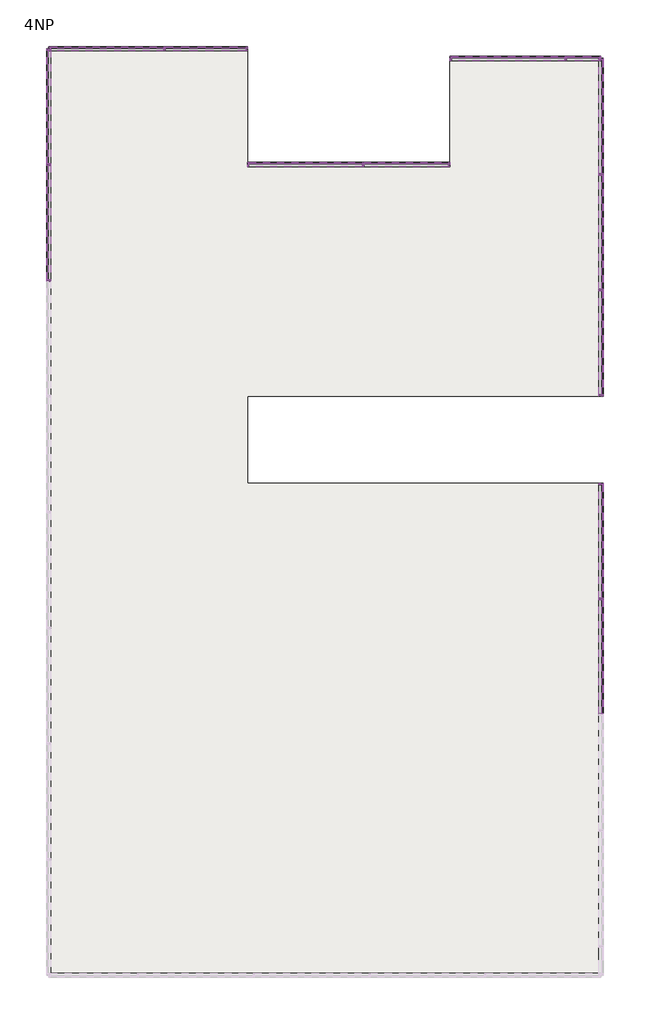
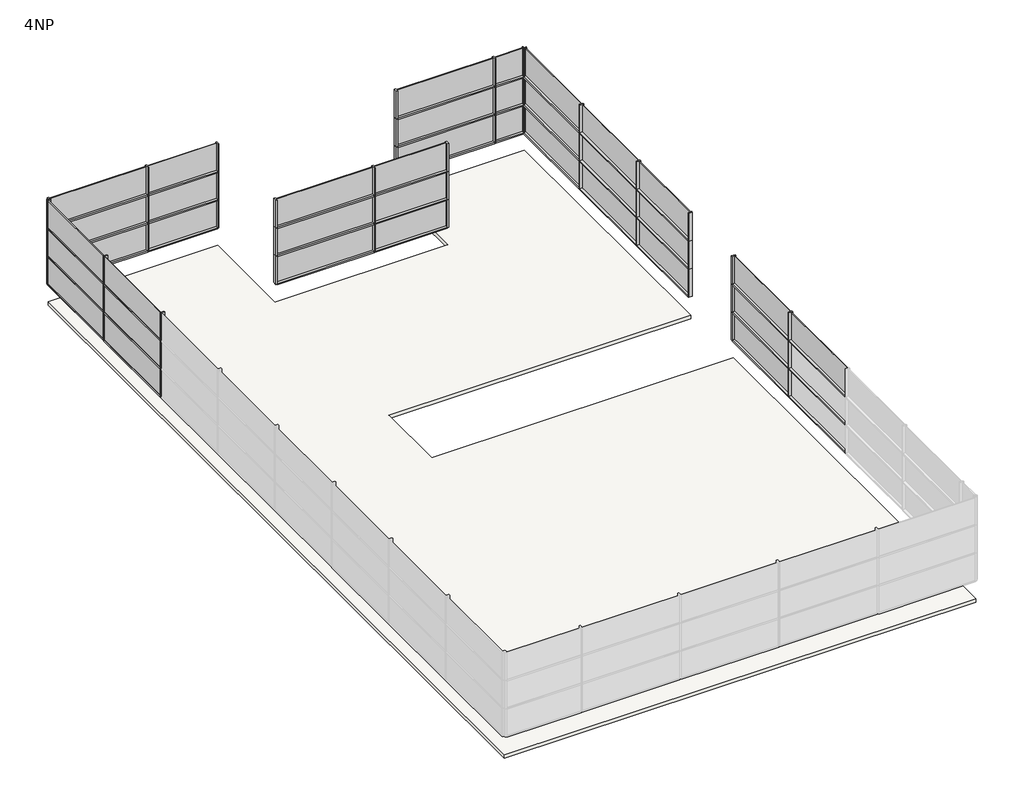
# One storey, part 2 of 2: 93 members, 37 plates, 1 slab.
"""IFC4 building model written with IfcOpenShell, lengths in millimetres."""

from ifc_helpers import new_model, si_unit, frame, origin, place, context, project, spatial, polyline, outline, extrude, transform, mapped, element, save
from components import rectangular_mullion_50_x_150mm_d99dc9be, rectangular_mullion_50_x_150mm_6588f46c, rectangular_mullion_50_x_150mm_3fe1b35e, rectangular_mullion_50_x_150mm_a037c29c, rectangular_mullion_50_x_150mm_c2546fd4, rectangular_mullion_50_x_150mm_8b4cb4b7, rectangular_mullion_50_x_150mm_185cfd49, rectangular_mullion_50_x_150mm_2fe63767, system_panel_glazed_8e9402eb, system_panel_glazed_89ac83a7, system_panel_glazed_5566c609, system_panel_glazed_e890f31e, system_panel_glazed_e3e91f99, system_panel_glazed_39d17f19

model = new_model("IFC4")

# Units and contexts
model_context = context("Model", 3, world=origin())
ifc_project = project(units=[si_unit("LENGTHUNIT", "METRE", prefix="MILLI")], contexts=[model_context])

# Site, building, storey
site = spatial("IfcSite", under=ifc_project)
building = spatial("IfcBuilding", under=site)
storey = spatial("IfcBuildingStorey", under=building, Name="4NP", Elevation=16000.0)

# Members
placement = place(None, origin())
rectangular_mullion_50_x_150mm_shape = rectangular_mullion_50_x_150mm_d99dc9be(model_context)
element("IfcMember", 1, ObjectType="Rectangular Mullion : 50 x 150mm", at=placement, inside=storey, context=model_context, shape_type="MappedRepresentation", body=[
    mapped(rectangular_mullion_50_x_150mm_shape, transform((13503.2660975, 39.3555415, 20400.0), x_axis=(0.0, -1.0, 0.0), y_axis=(1.0, 0.0, 0.0), z_axis=(0.0, 0.0, 1.0))),
])
element("IfcMember", 2, ObjectType="Rectangular Mullion : 50 x 150mm", at=placement, inside=storey, context=model_context, shape_type="MappedRepresentation", body=[
    mapped(rectangular_mullion_50_x_150mm_shape, transform((13503.2660975, 39.3555415, 19200.0), x_axis=(0.0, -1.0, 0.0), y_axis=(1.0, 0.0, 0.0), z_axis=(0.0, 0.0, 1.0))),
])
element("IfcMember", 3, ObjectType="Rectangular Mullion : 50 x 150mm", at=placement, inside=storey, context=model_context, shape_type="MappedRepresentation", body=[
    mapped(rectangular_mullion_50_x_150mm_shape, transform((13503.2660975, 39.3555415, 18000.0), x_axis=(0.0, -1.0, 0.0), y_axis=(1.0, 0.0, 0.0), z_axis=(0.0, 0.0, 1.0))),
])
element("IfcMember", 4, ObjectType="Rectangular Mullion : 50 x 150mm", at=placement, inside=storey, context=model_context, shape_type="MappedRepresentation", body=[
    mapped(rectangular_mullion_50_x_150mm_shape, transform((13503.2660975, 4039.3555415, 20400.0), x_axis=(0.0, -1.0, 0.0), y_axis=(1.0, 0.0, 0.0), z_axis=(0.0, 0.0, 1.0))),
])
element("IfcMember", 5, ObjectType="Rectangular Mullion : 50 x 150mm", at=placement, inside=storey, context=model_context, shape_type="MappedRepresentation", body=[
    mapped(rectangular_mullion_50_x_150mm_shape, transform((13503.2660975, 4039.3555415, 19200.0), x_axis=(0.0, -1.0, 0.0), y_axis=(1.0, 0.0, 0.0), z_axis=(0.0, 0.0, 1.0))),
])
element("IfcMember", 6, ObjectType="Rectangular Mullion : 50 x 150mm", at=placement, inside=storey, context=model_context, shape_type="MappedRepresentation", body=[
    mapped(rectangular_mullion_50_x_150mm_shape, transform((13503.2660975, 4039.3555415, 18000.0), x_axis=(0.0, -1.0, 0.0), y_axis=(1.0, 0.0, 0.0), z_axis=(0.0, 0.0, 1.0))),
])
element("IfcMember", 7, ObjectType="Rectangular Mullion : 50 x 150mm", at=placement, inside=storey, context=model_context, shape_type="MappedRepresentation", body=[
    mapped(rectangular_mullion_50_x_150mm_shape, transform((13503.2660975, -10624.0160434, 18000.0), x_axis=(0.0, -1.0, 0.0), y_axis=(1.0, 0.0, 0.0), z_axis=(0.0, 0.0, 1.0))),
])
element("IfcMember", 8, ObjectType="Rectangular Mullion : 50 x 150mm", at=placement, inside=storey, context=model_context, shape_type="MappedRepresentation", body=[
    mapped(rectangular_mullion_50_x_150mm_shape, transform((13503.2660975, -10624.0160434, 19200.0), x_axis=(0.0, -1.0, 0.0), y_axis=(1.0, 0.0, 0.0), z_axis=(0.0, 0.0, 1.0))),
])
element("IfcMember", 9, ObjectType="Rectangular Mullion : 50 x 150mm", at=placement, inside=storey, context=model_context, shape_type="MappedRepresentation", body=[
    mapped(rectangular_mullion_50_x_150mm_shape, transform((13503.2660975, -10624.0160434, 20400.0), x_axis=(0.0, -1.0, 0.0), y_axis=(1.0, 0.0, 0.0), z_axis=(0.0, 0.0, 1.0))),
])
element("IfcMember", 10, ObjectType="Rectangular Mullion : 50 x 150mm", at=placement, inside=storey, context=model_context, shape_type="MappedRepresentation", body=[
    mapped(rectangular_mullion_50_x_150mm_shape, transform((-5587.173406, 375.9839566, 18000.0), x_axis=(0.0, 1.0, 0.0), y_axis=(-1.0, 0.0, 0.0), z_axis=(0.0, 0.0, 1.0))),
])
element("IfcMember", 11, ObjectType="Rectangular Mullion : 50 x 150mm", at=placement, inside=storey, context=model_context, shape_type="MappedRepresentation", body=[
    mapped(rectangular_mullion_50_x_150mm_shape, transform((-5587.173406, 375.9839566, 19200.0), x_axis=(0.0, 1.0, 0.0), y_axis=(-1.0, 0.0, 0.0), z_axis=(0.0, 0.0, 1.0))),
])
element("IfcMember", 12, ObjectType="Rectangular Mullion : 50 x 150mm", at=placement, inside=storey, context=model_context, shape_type="MappedRepresentation", body=[
    mapped(rectangular_mullion_50_x_150mm_shape, transform((-5587.173406, 375.9839566, 20400.0), x_axis=(0.0, 1.0, 0.0), y_axis=(-1.0, 0.0, 0.0), z_axis=(0.0, 0.0, 1.0))),
])
element("IfcMember", 13, ObjectType="Rectangular Mullion : 50 x 150mm", at=placement, inside=storey, context=model_context, shape_type="MappedRepresentation", body=[
    mapped(rectangular_mullion_50_x_150mm_shape, transform((-5587.173406, 4375.9839566, 18000.0), x_axis=(0.0, 1.0, 0.0), y_axis=(-1.0, 0.0, 0.0), z_axis=(0.0, 0.0, 1.0))),
])
element("IfcMember", 14, ObjectType="Rectangular Mullion : 50 x 150mm", at=placement, inside=storey, context=model_context, shape_type="MappedRepresentation", body=[
    mapped(rectangular_mullion_50_x_150mm_shape, transform((-5587.173406, 4375.9839566, 19200.0), x_axis=(0.0, 1.0, 0.0), y_axis=(-1.0, 0.0, 0.0), z_axis=(0.0, 0.0, 1.0))),
])
element("IfcMember", 15, ObjectType="Rectangular Mullion : 50 x 150mm", at=placement, inside=storey, context=model_context, shape_type="MappedRepresentation", body=[
    mapped(rectangular_mullion_50_x_150mm_shape, transform((-5587.173406, 4375.9839566, 20400.0), x_axis=(0.0, 1.0, 0.0), y_axis=(-1.0, 0.0, 0.0), z_axis=(0.0, 0.0, 1.0))),
])
element("IfcMember", 16, ObjectType="Rectangular Mullion : 50 x 150mm", at=placement, inside=storey, context=model_context, shape_type="MappedRepresentation", body=[
    mapped(rectangular_mullion_50_x_150mm_shape, transform((-1587.173406, 8375.9839566, 18000.0), x_axis=(1.0, 0.0, 0.0), y_axis=(0.0, 1.0, 0.0), z_axis=(0.0, 0.0, 1.0))),
])
element("IfcMember", 17, ObjectType="Rectangular Mullion : 50 x 150mm", at=placement, inside=storey, context=model_context, shape_type="MappedRepresentation", body=[
    mapped(rectangular_mullion_50_x_150mm_shape, transform((-1587.173406, 8375.9839566, 19200.0), x_axis=(1.0, 0.0, 0.0), y_axis=(0.0, 1.0, 0.0), z_axis=(0.0, 0.0, 1.0))),
])
element("IfcMember", 18, ObjectType="Rectangular Mullion : 50 x 150mm", at=placement, inside=storey, context=model_context, shape_type="MappedRepresentation", body=[
    mapped(rectangular_mullion_50_x_150mm_shape, transform((-1587.173406, 8375.9839566, 20400.0), x_axis=(1.0, 0.0, 0.0), y_axis=(0.0, 1.0, 0.0), z_axis=(0.0, 0.0, 1.0))),
])
element("IfcMember", 19, ObjectType="Rectangular Mullion : 50 x 150mm", at=placement, inside=storey, context=model_context, shape_type="MappedRepresentation", body=[
    mapped(rectangular_mullion_50_x_150mm_shape, transform((5278.419219, 4375.9839566, 18000.0), x_axis=(1.0, 0.0, 0.0), y_axis=(0.0, 1.0, 0.0), z_axis=(0.0, 0.0, 1.0))),
])
element("IfcMember", 20, ObjectType="Rectangular Mullion : 50 x 150mm", at=placement, inside=storey, context=model_context, shape_type="MappedRepresentation", body=[
    mapped(rectangular_mullion_50_x_150mm_shape, transform((5278.419219, 4375.9839566, 19200.0), x_axis=(1.0, 0.0, 0.0), y_axis=(0.0, 1.0, 0.0), z_axis=(0.0, 0.0, 1.0))),
])
element("IfcMember", 21, ObjectType="Rectangular Mullion : 50 x 150mm", at=placement, inside=storey, context=model_context, shape_type="MappedRepresentation", body=[
    mapped(rectangular_mullion_50_x_150mm_shape, transform((5278.419219, 4375.9839566, 20400.0), x_axis=(1.0, 0.0, 0.0), y_axis=(0.0, 1.0, 0.0), z_axis=(0.0, 0.0, 1.0))),
])
element("IfcMember", 22, ObjectType="Rectangular Mullion : 50 x 150mm", at=placement, inside=storey, context=model_context, shape_type="MappedRepresentation", body=[
    mapped(rectangular_mullion_50_x_150mm_shape, transform((12278.419219, 8039.3555415, 18000.0), x_axis=(1.0, 0.0, 0.0), y_axis=(0.0, 1.0, 0.0), z_axis=(0.0, 0.0, 1.0))),
])
element("IfcMember", 23, ObjectType="Rectangular Mullion : 50 x 150mm", at=placement, inside=storey, context=model_context, shape_type="MappedRepresentation", body=[
    mapped(rectangular_mullion_50_x_150mm_shape, transform((12278.419219, 8039.3555415, 19200.0), x_axis=(1.0, 0.0, 0.0), y_axis=(0.0, 1.0, 0.0), z_axis=(0.0, 0.0, 1.0))),
])
element("IfcMember", 24, ObjectType="Rectangular Mullion : 50 x 150mm", at=placement, inside=storey, context=model_context, shape_type="MappedRepresentation", body=[
    mapped(rectangular_mullion_50_x_150mm_shape, transform((12278.419219, 8039.3555415, 20400.0), x_axis=(1.0, 0.0, 0.0), y_axis=(0.0, 1.0, 0.0), z_axis=(0.0, 0.0, 1.0))),
])
rectangular_mullion_50_x_150mm_2_shape = rectangular_mullion_50_x_150mm_6588f46c(model_context)
element("IfcMember", 25, ObjectType="Rectangular Mullion : 50 x 150mm", at=placement, inside=storey, context=model_context, shape_type="MappedRepresentation", body=[
    mapped(rectangular_mullion_50_x_150mm_2_shape, transform((13503.2660975, -3624.0160434, 20400.0), x_axis=(0.0, -1.0, 0.0), y_axis=(1.0, 0.0, 0.0), z_axis=(0.0, 0.0, 1.0))),
])
element("IfcMember", 26, ObjectType="Rectangular Mullion : 50 x 150mm", at=placement, inside=storey, context=model_context, shape_type="MappedRepresentation", body=[
    mapped(rectangular_mullion_50_x_150mm_2_shape, transform((13503.2660975, -3624.0160434, 19200.0), x_axis=(0.0, -1.0, 0.0), y_axis=(1.0, 0.0, 0.0), z_axis=(0.0, 0.0, 1.0))),
])
element("IfcMember", 27, ObjectType="Rectangular Mullion : 50 x 150mm", at=placement, inside=storey, context=model_context, shape_type="MappedRepresentation", body=[
    mapped(rectangular_mullion_50_x_150mm_2_shape, transform((13503.2660975, -3624.0160434, 18000.0), x_axis=(0.0, -1.0, 0.0), y_axis=(1.0, 0.0, 0.0), z_axis=(0.0, 0.0, 1.0))),
])
element("IfcMember", 28, ObjectType="Rectangular Mullion : 50 x 150mm", at=placement, inside=storey, context=model_context, shape_type="MappedRepresentation", body=[
    mapped(rectangular_mullion_50_x_150mm_2_shape, transform((-5587.173406, 8375.9839566, 18000.0), x_axis=(0.0, 1.0, 0.0), y_axis=(-1.0, 0.0, 0.0), z_axis=(0.0, 0.0, 1.0))),
])
element("IfcMember", 29, ObjectType="Rectangular Mullion : 50 x 150mm", at=placement, inside=storey, context=model_context, shape_type="MappedRepresentation", body=[
    mapped(rectangular_mullion_50_x_150mm_2_shape, transform((-5587.173406, 8375.9839566, 19200.0), x_axis=(0.0, 1.0, 0.0), y_axis=(-1.0, 0.0, 0.0), z_axis=(0.0, 0.0, 1.0))),
])
element("IfcMember", 30, ObjectType="Rectangular Mullion : 50 x 150mm", at=placement, inside=storey, context=model_context, shape_type="MappedRepresentation", body=[
    mapped(rectangular_mullion_50_x_150mm_2_shape, transform((-5587.173406, 8375.9839566, 20400.0), x_axis=(0.0, 1.0, 0.0), y_axis=(-1.0, 0.0, 0.0), z_axis=(0.0, 0.0, 1.0))),
])
element("IfcMember", 31, ObjectType="Rectangular Mullion : 50 x 150mm", at=placement, inside=storey, context=model_context, shape_type="MappedRepresentation", body=[
    mapped(rectangular_mullion_50_x_150mm_2_shape, transform((1278.419219, 8375.9839566, 18000.0), x_axis=(1.0, 0.0, 0.0), y_axis=(0.0, 1.0, 0.0), z_axis=(0.0, 0.0, 1.0))),
])
element("IfcMember", 32, ObjectType="Rectangular Mullion : 50 x 150mm", at=placement, inside=storey, context=model_context, shape_type="MappedRepresentation", body=[
    mapped(rectangular_mullion_50_x_150mm_2_shape, transform((1278.419219, 8375.9839566, 19200.0), x_axis=(1.0, 0.0, 0.0), y_axis=(0.0, 1.0, 0.0), z_axis=(0.0, 0.0, 1.0))),
])
element("IfcMember", 33, ObjectType="Rectangular Mullion : 50 x 150mm", at=placement, inside=storey, context=model_context, shape_type="MappedRepresentation", body=[
    mapped(rectangular_mullion_50_x_150mm_2_shape, transform((1278.419219, 8375.9839566, 20400.0), x_axis=(1.0, 0.0, 0.0), y_axis=(0.0, 1.0, 0.0), z_axis=(0.0, 0.0, 1.0))),
])
element("IfcMember", 34, ObjectType="Rectangular Mullion : 50 x 150mm", at=placement, inside=storey, context=model_context, shape_type="MappedRepresentation", body=[
    mapped(rectangular_mullion_50_x_150mm_2_shape, transform((8278.419219, 4375.9839566, 18000.0), x_axis=(1.0, 0.0, 0.0), y_axis=(0.0, 1.0, 0.0), z_axis=(0.0, 0.0, 1.0))),
])
element("IfcMember", 35, ObjectType="Rectangular Mullion : 50 x 150mm", at=placement, inside=storey, context=model_context, shape_type="MappedRepresentation", body=[
    mapped(rectangular_mullion_50_x_150mm_2_shape, transform((8278.419219, 4375.9839566, 19200.0), x_axis=(1.0, 0.0, 0.0), y_axis=(0.0, 1.0, 0.0), z_axis=(0.0, 0.0, 1.0))),
])
element("IfcMember", 36, ObjectType="Rectangular Mullion : 50 x 150mm", at=placement, inside=storey, context=model_context, shape_type="MappedRepresentation", body=[
    mapped(rectangular_mullion_50_x_150mm_2_shape, transform((8278.419219, 4375.9839566, 20400.0), x_axis=(1.0, 0.0, 0.0), y_axis=(0.0, 1.0, 0.0), z_axis=(0.0, 0.0, 1.0))),
])
element("IfcMember", 37, ObjectType="Rectangular Mullion : 50 x 150mm", at=placement, inside=storey, context=model_context, shape_type="MappedRepresentation", body=[
    mapped(rectangular_mullion_50_x_150mm_2_shape, transform((13503.2660975, 8039.3555415, 18000.0), x_axis=(1.0, 0.0, 0.0), y_axis=(0.0, 1.0, 0.0), z_axis=(0.0, 0.0, 1.0))),
])
element("IfcMember", 38, ObjectType="Rectangular Mullion : 50 x 150mm", at=placement, inside=storey, context=model_context, shape_type="MappedRepresentation", body=[
    mapped(rectangular_mullion_50_x_150mm_2_shape, transform((13503.2660975, 8039.3555415, 19200.0), x_axis=(1.0, 0.0, 0.0), y_axis=(0.0, 1.0, 0.0), z_axis=(0.0, 0.0, 1.0))),
])
element("IfcMember", 39, ObjectType="Rectangular Mullion : 50 x 150mm", at=placement, inside=storey, context=model_context, shape_type="MappedRepresentation", body=[
    mapped(rectangular_mullion_50_x_150mm_2_shape, transform((13503.2660975, 8039.3555415, 20400.0), x_axis=(1.0, 0.0, 0.0), y_axis=(0.0, 1.0, 0.0), z_axis=(0.0, 0.0, 1.0))),
])
rectangular_mullion_50_x_150mm_3_shape = rectangular_mullion_50_x_150mm_3fe1b35e(model_context)
element("IfcMember", 40, ObjectType="Rectangular Mullion : 50 x 150mm", at=placement, inside=storey, context=model_context, shape_type="MappedRepresentation", body=[
    mapped(rectangular_mullion_50_x_150mm_3_shape, transform((13503.2660975, 14.3555415, 19200.0), x_axis=(0.0, 0.0, 1.0), y_axis=(1.0, 0.0, 0.0), z_axis=(0.0, 1.0, 0.0))),
])
element("IfcMember", 41, ObjectType="Rectangular Mullion : 50 x 150mm", at=placement, inside=storey, context=model_context, shape_type="MappedRepresentation", body=[
    mapped(rectangular_mullion_50_x_150mm_3_shape, transform((13503.2660975, 14.3555415, 18000.0), x_axis=(0.0, 0.0, 1.0), y_axis=(1.0, 0.0, 0.0), z_axis=(0.0, 1.0, 0.0))),
])
element("IfcMember", 42, ObjectType="Rectangular Mullion : 50 x 150mm", at=placement, inside=storey, context=model_context, shape_type="MappedRepresentation", body=[
    mapped(rectangular_mullion_50_x_150mm_3_shape, transform((13503.2660975, 14.3555415, 16800.0), x_axis=(0.0, 0.0, 1.0), y_axis=(1.0, 0.0, 0.0), z_axis=(0.0, 1.0, 0.0))),
])
rectangular_mullion_50_x_150mm_4_shape = rectangular_mullion_50_x_150mm_a037c29c(model_context)
element("IfcMember", 43, ObjectType="Rectangular Mullion : 50 x 150mm", at=placement, inside=storey, context=model_context, shape_type="MappedRepresentation", body=[
    mapped(rectangular_mullion_50_x_150mm_4_shape, transform((13503.2660975, 4014.3555415, 19200.0), x_axis=(0.0, 0.0, 1.0), y_axis=(1.0, 0.0, 0.0), z_axis=(0.0, 1.0, 0.0))),
])
element("IfcMember", 44, ObjectType="Rectangular Mullion : 50 x 150mm", at=placement, inside=storey, context=model_context, shape_type="MappedRepresentation", body=[
    mapped(rectangular_mullion_50_x_150mm_4_shape, transform((13503.2660975, 4014.3555415, 18000.0), x_axis=(0.0, 0.0, 1.0), y_axis=(1.0, 0.0, 0.0), z_axis=(0.0, 1.0, 0.0))),
])
element("IfcMember", 45, ObjectType="Rectangular Mullion : 50 x 150mm", at=placement, inside=storey, context=model_context, shape_type="MappedRepresentation", body=[
    mapped(rectangular_mullion_50_x_150mm_4_shape, transform((13503.2660975, 4014.3555415, 16800.0), x_axis=(0.0, 0.0, 1.0), y_axis=(1.0, 0.0, 0.0), z_axis=(0.0, 1.0, 0.0))),
])
element("IfcMember", 46, ObjectType="Rectangular Mullion : 50 x 150mm", at=placement, inside=storey, context=model_context, shape_type="MappedRepresentation", body=[
    mapped(rectangular_mullion_50_x_150mm_4_shape, transform((13503.2660975, -10649.0160434, 16800.0), x_axis=(0.0, 0.0, 1.0), y_axis=(1.0, 0.0, 0.0), z_axis=(0.0, 1.0, 0.0))),
])
element("IfcMember", 47, ObjectType="Rectangular Mullion : 50 x 150mm", at=placement, inside=storey, context=model_context, shape_type="MappedRepresentation", body=[
    mapped(rectangular_mullion_50_x_150mm_4_shape, transform((13503.2660975, -10649.0160434, 18000.0), x_axis=(0.0, 0.0, 1.0), y_axis=(1.0, 0.0, 0.0), z_axis=(0.0, 1.0, 0.0))),
])
element("IfcMember", 48, ObjectType="Rectangular Mullion : 50 x 150mm", at=placement, inside=storey, context=model_context, shape_type="MappedRepresentation", body=[
    mapped(rectangular_mullion_50_x_150mm_4_shape, transform((13503.2660975, -10649.0160434, 19200.0), x_axis=(0.0, 0.0, 1.0), y_axis=(1.0, 0.0, 0.0), z_axis=(0.0, 1.0, 0.0))),
])
element("IfcMember", 49, ObjectType="Rectangular Mullion : 50 x 150mm", at=placement, inside=storey, context=model_context, shape_type="MappedRepresentation", body=[
    mapped(rectangular_mullion_50_x_150mm_4_shape, transform((-5587.173406, 400.9839566, 16800.0), x_axis=(0.0, 0.0, 1.0), y_axis=(-1.0, 0.0, 0.0), z_axis=(0.0, -1.0, 0.0))),
])
element("IfcMember", 50, ObjectType="Rectangular Mullion : 50 x 150mm", at=placement, inside=storey, context=model_context, shape_type="MappedRepresentation", body=[
    mapped(rectangular_mullion_50_x_150mm_4_shape, transform((-5587.173406, 400.9839566, 18000.0), x_axis=(0.0, 0.0, 1.0), y_axis=(-1.0, 0.0, 0.0), z_axis=(0.0, -1.0, 0.0))),
])
element("IfcMember", 51, ObjectType="Rectangular Mullion : 50 x 150mm", at=placement, inside=storey, context=model_context, shape_type="MappedRepresentation", body=[
    mapped(rectangular_mullion_50_x_150mm_4_shape, transform((-5587.173406, 400.9839566, 19200.0), x_axis=(0.0, 0.0, 1.0), y_axis=(-1.0, 0.0, 0.0), z_axis=(0.0, -1.0, 0.0))),
])
rectangular_mullion_50_x_150mm_5_shape = rectangular_mullion_50_x_150mm_c2546fd4(model_context)
element("IfcMember", 52, ObjectType="Rectangular Mullion : 50 x 150mm", at=placement, inside=storey, context=model_context, shape_type="MappedRepresentation", body=[
    mapped(rectangular_mullion_50_x_150mm_5_shape, transform((13503.2660975, 7989.3555415, 19200.0), x_axis=(0.0, 0.0, 1.0), y_axis=(1.0, 0.0, 0.0), z_axis=(0.0, 1.0, 0.0))),
])
element("IfcMember", 53, ObjectType="Rectangular Mullion : 50 x 150mm", at=placement, inside=storey, context=model_context, shape_type="MappedRepresentation", body=[
    mapped(rectangular_mullion_50_x_150mm_5_shape, transform((13503.2660975, 7989.3555415, 18000.0), x_axis=(0.0, 0.0, 1.0), y_axis=(1.0, 0.0, 0.0), z_axis=(0.0, 1.0, 0.0))),
])
element("IfcMember", 54, ObjectType="Rectangular Mullion : 50 x 150mm", at=placement, inside=storey, context=model_context, shape_type="MappedRepresentation", body=[
    mapped(rectangular_mullion_50_x_150mm_5_shape, transform((13503.2660975, 7989.3555415, 16800.0), x_axis=(0.0, 0.0, 1.0), y_axis=(1.0, 0.0, 0.0), z_axis=(0.0, 1.0, 0.0))),
])
element("IfcMember", 55, ObjectType="Rectangular Mullion : 50 x 150mm", at=placement, inside=storey, context=model_context, shape_type="MappedRepresentation", body=[
    mapped(rectangular_mullion_50_x_150mm_5_shape, transform((13503.2660975, -6674.0160434, 16800.0), x_axis=(0.0, 0.0, 1.0), y_axis=(1.0, 0.0, 0.0), z_axis=(0.0, 1.0, 0.0))),
])
element("IfcMember", 56, ObjectType="Rectangular Mullion : 50 x 150mm", at=placement, inside=storey, context=model_context, shape_type="MappedRepresentation", body=[
    mapped(rectangular_mullion_50_x_150mm_5_shape, transform((13503.2660975, -6674.0160434, 18000.0), x_axis=(0.0, 0.0, 1.0), y_axis=(1.0, 0.0, 0.0), z_axis=(0.0, 1.0, 0.0))),
])
element("IfcMember", 57, ObjectType="Rectangular Mullion : 50 x 150mm", at=placement, inside=storey, context=model_context, shape_type="MappedRepresentation", body=[
    mapped(rectangular_mullion_50_x_150mm_5_shape, transform((13503.2660975, -6674.0160434, 19200.0), x_axis=(0.0, 0.0, 1.0), y_axis=(1.0, 0.0, 0.0), z_axis=(0.0, 1.0, 0.0))),
])
element("IfcMember", 58, ObjectType="Rectangular Mullion : 50 x 150mm", at=placement, inside=storey, context=model_context, shape_type="MappedRepresentation", body=[
    mapped(rectangular_mullion_50_x_150mm_5_shape, transform((-5587.173406, 4400.9839566, 16800.0), x_axis=(0.0, 0.0, 1.0), y_axis=(-1.0, 0.0, 0.0), z_axis=(0.0, -1.0, 0.0))),
])
element("IfcMember", 59, ObjectType="Rectangular Mullion : 50 x 150mm", at=placement, inside=storey, context=model_context, shape_type="MappedRepresentation", body=[
    mapped(rectangular_mullion_50_x_150mm_5_shape, transform((-5587.173406, 4400.9839566, 18000.0), x_axis=(0.0, 0.0, 1.0), y_axis=(-1.0, 0.0, 0.0), z_axis=(0.0, -1.0, 0.0))),
])
element("IfcMember", 60, ObjectType="Rectangular Mullion : 50 x 150mm", at=placement, inside=storey, context=model_context, shape_type="MappedRepresentation", body=[
    mapped(rectangular_mullion_50_x_150mm_5_shape, transform((-5587.173406, 4400.9839566, 19200.0), x_axis=(0.0, 0.0, 1.0), y_axis=(-1.0, 0.0, 0.0), z_axis=(0.0, -1.0, 0.0))),
])
element("IfcMember", 61, ObjectType="Rectangular Mullion : 50 x 150mm", at=placement, inside=storey, context=model_context, shape_type="MappedRepresentation", body=[
    mapped(rectangular_mullion_50_x_150mm_5_shape, transform((-5537.173406, 8375.9839566, 18000.0), x_axis=(0.0, 0.0, 1.0), y_axis=(0.0, 1.0, 0.0), z_axis=(-1.0, 0.0, 0.0))),
])
element("IfcMember", 62, ObjectType="Rectangular Mullion : 50 x 150mm", at=placement, inside=storey, context=model_context, shape_type="MappedRepresentation", body=[
    mapped(rectangular_mullion_50_x_150mm_5_shape, transform((-5537.173406, 8375.9839566, 19200.0), x_axis=(0.0, 0.0, 1.0), y_axis=(0.0, 1.0, 0.0), z_axis=(-1.0, 0.0, 0.0))),
])
element("IfcMember", 63, ObjectType="Rectangular Mullion : 50 x 150mm", at=placement, inside=storey, context=model_context, shape_type="MappedRepresentation", body=[
    mapped(rectangular_mullion_50_x_150mm_5_shape, transform((-5537.173406, 8375.9839566, 16800.0), x_axis=(0.0, 0.0, 1.0), y_axis=(0.0, 1.0, 0.0), z_axis=(-1.0, 0.0, 0.0))),
])
element("IfcMember", 64, ObjectType="Rectangular Mullion : 50 x 150mm", at=placement, inside=storey, context=model_context, shape_type="MappedRepresentation", body=[
    mapped(rectangular_mullion_50_x_150mm_5_shape, transform((1328.419219, 4375.9839566, 16800.0), x_axis=(0.0, 0.0, 1.0), y_axis=(0.0, 1.0, 0.0), z_axis=(-1.0, 0.0, 0.0))),
])
element("IfcMember", 65, ObjectType="Rectangular Mullion : 50 x 150mm", at=placement, inside=storey, context=model_context, shape_type="MappedRepresentation", body=[
    mapped(rectangular_mullion_50_x_150mm_5_shape, transform((1328.419219, 4375.9839566, 18000.0), x_axis=(0.0, 0.0, 1.0), y_axis=(0.0, 1.0, 0.0), z_axis=(-1.0, 0.0, 0.0))),
])
element("IfcMember", 66, ObjectType="Rectangular Mullion : 50 x 150mm", at=placement, inside=storey, context=model_context, shape_type="MappedRepresentation", body=[
    mapped(rectangular_mullion_50_x_150mm_5_shape, transform((1328.419219, 4375.9839566, 19200.0), x_axis=(0.0, 0.0, 1.0), y_axis=(0.0, 1.0, 0.0), z_axis=(-1.0, 0.0, 0.0))),
])
element("IfcMember", 67, ObjectType="Rectangular Mullion : 50 x 150mm", at=placement, inside=storey, context=model_context, shape_type="MappedRepresentation", body=[
    mapped(rectangular_mullion_50_x_150mm_5_shape, transform((8328.419219, 8039.3555415, 16800.0), x_axis=(0.0, 0.0, 1.0), y_axis=(0.0, 1.0, 0.0), z_axis=(-1.0, 0.0, 0.0))),
])
element("IfcMember", 68, ObjectType="Rectangular Mullion : 50 x 150mm", at=placement, inside=storey, context=model_context, shape_type="MappedRepresentation", body=[
    mapped(rectangular_mullion_50_x_150mm_5_shape, transform((8328.419219, 8039.3555415, 18000.0), x_axis=(0.0, 0.0, 1.0), y_axis=(0.0, 1.0, 0.0), z_axis=(-1.0, 0.0, 0.0))),
])
element("IfcMember", 69, ObjectType="Rectangular Mullion : 50 x 150mm", at=placement, inside=storey, context=model_context, shape_type="MappedRepresentation", body=[
    mapped(rectangular_mullion_50_x_150mm_5_shape, transform((8328.419219, 8039.3555415, 19200.0), x_axis=(0.0, 0.0, 1.0), y_axis=(0.0, 1.0, 0.0), z_axis=(-1.0, 0.0, 0.0))),
])
element("IfcMember", 70, ObjectType="Rectangular Mullion : 50 x 150mm", at=placement, inside=storey, context=model_context, shape_type="MappedRepresentation", body=[
    mapped(rectangular_mullion_50_x_150mm_2_shape, transform((13503.2660975, 8039.3555415, 19200.0), x_axis=(0.0, 1.0, 0.0), y_axis=(1.0, 0.0, 0.0), z_axis=(0.0, 0.0, -1.0))),
])
element("IfcMember", 71, ObjectType="Rectangular Mullion : 50 x 150mm", at=placement, inside=storey, context=model_context, shape_type="MappedRepresentation", body=[
    mapped(rectangular_mullion_50_x_150mm_2_shape, transform((13503.2660975, 8039.3555415, 18000.0), x_axis=(0.0, 1.0, 0.0), y_axis=(1.0, 0.0, 0.0), z_axis=(0.0, 0.0, -1.0))),
])
element("IfcMember", 72, ObjectType="Rectangular Mullion : 50 x 150mm", at=placement, inside=storey, context=model_context, shape_type="MappedRepresentation", body=[
    mapped(rectangular_mullion_50_x_150mm_2_shape, transform((13503.2660975, 8039.3555415, 16800.0), x_axis=(0.0, 1.0, 0.0), y_axis=(1.0, 0.0, 0.0), z_axis=(0.0, 0.0, -1.0))),
])
element("IfcMember", 73, ObjectType="Rectangular Mullion : 50 x 150mm", at=placement, inside=storey, context=model_context, shape_type="MappedRepresentation", body=[
    mapped(rectangular_mullion_50_x_150mm_2_shape, transform((13503.2660975, -6624.0160434, 16800.0), x_axis=(0.0, 1.0, 0.0), y_axis=(1.0, 0.0, 0.0), z_axis=(0.0, 0.0, -1.0))),
])
element("IfcMember", 74, ObjectType="Rectangular Mullion : 50 x 150mm", at=placement, inside=storey, context=model_context, shape_type="MappedRepresentation", body=[
    mapped(rectangular_mullion_50_x_150mm_2_shape, transform((13503.2660975, -6624.0160434, 18000.0), x_axis=(0.0, 1.0, 0.0), y_axis=(1.0, 0.0, 0.0), z_axis=(0.0, 0.0, -1.0))),
])
element("IfcMember", 75, ObjectType="Rectangular Mullion : 50 x 150mm", at=placement, inside=storey, context=model_context, shape_type="MappedRepresentation", body=[
    mapped(rectangular_mullion_50_x_150mm_2_shape, transform((13503.2660975, -6624.0160434, 19200.0), x_axis=(0.0, 1.0, 0.0), y_axis=(1.0, 0.0, 0.0), z_axis=(0.0, 0.0, -1.0))),
])
element("IfcMember", 76, ObjectType="Rectangular Mullion : 50 x 150mm", at=placement, inside=storey, context=model_context, shape_type="MappedRepresentation", body=[
    mapped(rectangular_mullion_50_x_150mm_2_shape, transform((-5587.173406, 8375.9839566, 16800.0), x_axis=(-1.0, 0.0, 0.0), y_axis=(0.0, 1.0, 0.0), z_axis=(0.0, 0.0, -1.0))),
])
element("IfcMember", 77, ObjectType="Rectangular Mullion : 50 x 150mm", at=placement, inside=storey, context=model_context, shape_type="MappedRepresentation", body=[
    mapped(rectangular_mullion_50_x_150mm_2_shape, transform((-5587.173406, 8375.9839566, 18000.0), x_axis=(-1.0, 0.0, 0.0), y_axis=(0.0, 1.0, 0.0), z_axis=(0.0, 0.0, -1.0))),
])
element("IfcMember", 78, ObjectType="Rectangular Mullion : 50 x 150mm", at=placement, inside=storey, context=model_context, shape_type="MappedRepresentation", body=[
    mapped(rectangular_mullion_50_x_150mm_2_shape, transform((-5587.173406, 8375.9839566, 19200.0), x_axis=(-1.0, 0.0, 0.0), y_axis=(0.0, 1.0, 0.0), z_axis=(0.0, 0.0, -1.0))),
])
element("IfcMember", 79, ObjectType="Rectangular Mullion : 50 x 150mm", at=placement, inside=storey, context=model_context, shape_type="MappedRepresentation", body=[
    mapped(rectangular_mullion_50_x_150mm_2_shape, transform((1278.419219, 4375.9839566, 16800.0), x_axis=(-1.0, 0.0, 0.0), y_axis=(0.0, 1.0, 0.0), z_axis=(0.0, 0.0, -1.0))),
])
element("IfcMember", 80, ObjectType="Rectangular Mullion : 50 x 150mm", at=placement, inside=storey, context=model_context, shape_type="MappedRepresentation", body=[
    mapped(rectangular_mullion_50_x_150mm_2_shape, transform((1278.419219, 4375.9839566, 18000.0), x_axis=(-1.0, 0.0, 0.0), y_axis=(0.0, 1.0, 0.0), z_axis=(0.0, 0.0, -1.0))),
])
element("IfcMember", 81, ObjectType="Rectangular Mullion : 50 x 150mm", at=placement, inside=storey, context=model_context, shape_type="MappedRepresentation", body=[
    mapped(rectangular_mullion_50_x_150mm_2_shape, transform((1278.419219, 4375.9839566, 19200.0), x_axis=(-1.0, 0.0, 0.0), y_axis=(0.0, 1.0, 0.0), z_axis=(0.0, 0.0, -1.0))),
])
element("IfcMember", 82, ObjectType="Rectangular Mullion : 50 x 150mm", at=placement, inside=storey, context=model_context, shape_type="MappedRepresentation", body=[
    mapped(rectangular_mullion_50_x_150mm_2_shape, transform((8278.419219, 8039.3555415, 16800.0), x_axis=(-1.0, 0.0, 0.0), y_axis=(0.0, 1.0, 0.0), z_axis=(0.0, 0.0, -1.0))),
])
element("IfcMember", 83, ObjectType="Rectangular Mullion : 50 x 150mm", at=placement, inside=storey, context=model_context, shape_type="MappedRepresentation", body=[
    mapped(rectangular_mullion_50_x_150mm_2_shape, transform((8278.419219, 8039.3555415, 18000.0), x_axis=(-1.0, 0.0, 0.0), y_axis=(0.0, 1.0, 0.0), z_axis=(0.0, 0.0, -1.0))),
])
element("IfcMember", 84, ObjectType="Rectangular Mullion : 50 x 150mm", at=placement, inside=storey, context=model_context, shape_type="MappedRepresentation", body=[
    mapped(rectangular_mullion_50_x_150mm_2_shape, transform((8278.419219, 8039.3555415, 19200.0), x_axis=(-1.0, 0.0, 0.0), y_axis=(0.0, 1.0, 0.0), z_axis=(0.0, 0.0, -1.0))),
])
rectangular_mullion_50_x_150mm_6_shape = rectangular_mullion_50_x_150mm_8b4cb4b7(model_context)
element("IfcMember", 85, ObjectType="Rectangular Mullion : 50 x 150mm", at=placement, inside=storey, context=model_context, shape_type="MappedRepresentation", body=[
    mapped(rectangular_mullion_50_x_150mm_6_shape, transform((-1562.173406, 8375.9839566, 16800.0), x_axis=(0.0, 0.0, 1.0), y_axis=(0.0, 1.0, 0.0), z_axis=(-1.0, 0.0, 0.0))),
])
element("IfcMember", 86, ObjectType="Rectangular Mullion : 50 x 150mm", at=placement, inside=storey, context=model_context, shape_type="MappedRepresentation", body=[
    mapped(rectangular_mullion_50_x_150mm_6_shape, transform((-1562.173406, 8375.9839566, 18000.0), x_axis=(0.0, 0.0, 1.0), y_axis=(0.0, 1.0, 0.0), z_axis=(-1.0, 0.0, 0.0))),
])
element("IfcMember", 87, ObjectType="Rectangular Mullion : 50 x 150mm", at=placement, inside=storey, context=model_context, shape_type="MappedRepresentation", body=[
    mapped(rectangular_mullion_50_x_150mm_6_shape, transform((-1562.173406, 8375.9839566, 19200.0), x_axis=(0.0, 0.0, 1.0), y_axis=(0.0, 1.0, 0.0), z_axis=(-1.0, 0.0, 0.0))),
])
rectangular_mullion_50_x_150mm_7_shape = rectangular_mullion_50_x_150mm_185cfd49(model_context)
element("IfcMember", 88, ObjectType="Rectangular Mullion : 50 x 150mm", at=placement, inside=storey, context=model_context, shape_type="MappedRepresentation", body=[
    mapped(rectangular_mullion_50_x_150mm_7_shape, transform((5303.419219, 4375.9839566, 16800.0), x_axis=(0.0, 0.0, 1.0), y_axis=(0.0, 1.0, 0.0), z_axis=(-1.0, 0.0, 0.0))),
])
element("IfcMember", 89, ObjectType="Rectangular Mullion : 50 x 150mm", at=placement, inside=storey, context=model_context, shape_type="MappedRepresentation", body=[
    mapped(rectangular_mullion_50_x_150mm_7_shape, transform((5303.419219, 4375.9839566, 18000.0), x_axis=(0.0, 0.0, 1.0), y_axis=(0.0, 1.0, 0.0), z_axis=(-1.0, 0.0, 0.0))),
])
element("IfcMember", 90, ObjectType="Rectangular Mullion : 50 x 150mm", at=placement, inside=storey, context=model_context, shape_type="MappedRepresentation", body=[
    mapped(rectangular_mullion_50_x_150mm_7_shape, transform((5303.419219, 4375.9839566, 19200.0), x_axis=(0.0, 0.0, 1.0), y_axis=(0.0, 1.0, 0.0), z_axis=(-1.0, 0.0, 0.0))),
])
rectangular_mullion_50_x_150mm_8_shape = rectangular_mullion_50_x_150mm_2fe63767(model_context)
element("IfcMember", 91, ObjectType="Rectangular Mullion : 50 x 150mm", at=placement, inside=storey, context=model_context, shape_type="MappedRepresentation", body=[
    mapped(rectangular_mullion_50_x_150mm_8_shape, transform((12303.419219, 8039.3555415, 16800.0), x_axis=(0.0, 0.0, 1.0), y_axis=(0.0, 1.0, 0.0), z_axis=(-1.0, 0.0, 0.0))),
])
element("IfcMember", 92, ObjectType="Rectangular Mullion : 50 x 150mm", at=placement, inside=storey, context=model_context, shape_type="MappedRepresentation", body=[
    mapped(rectangular_mullion_50_x_150mm_8_shape, transform((12303.419219, 8039.3555415, 18000.0), x_axis=(0.0, 0.0, 1.0), y_axis=(0.0, 1.0, 0.0), z_axis=(-1.0, 0.0, 0.0))),
])
element("IfcMember", 93, ObjectType="Rectangular Mullion : 50 x 150mm", at=placement, inside=storey, context=model_context, shape_type="MappedRepresentation", body=[
    mapped(rectangular_mullion_50_x_150mm_8_shape, transform((12303.419219, 8039.3555415, 19200.0), x_axis=(0.0, 0.0, 1.0), y_axis=(0.0, 1.0, 0.0), z_axis=(-1.0, 0.0, 0.0))),
])

# Plates
system_panel_glazed_shape = system_panel_glazed_8e9402eb(model_context)
element("IfcPlate", 94, ObjectType="System Panel : Glazed", at=placement, inside=storey, context=model_context, shape_type="MappedRepresentation", body=[
    mapped(system_panel_glazed_shape, transform((-5587.173406, 6363.4839566, 16825.0), x_axis=(0.0, 1.0, 0.0), y_axis=(-1.0, 0.0, 0.0), z_axis=(0.0, 0.0, 1.0))),
])
element("IfcPlate", 95, ObjectType="System Panel : Glazed", at=placement, inside=storey, context=model_context, shape_type="MappedRepresentation", body=[
    mapped(system_panel_glazed_shape, transform((-5587.173406, 6363.4839566, 18025.0), x_axis=(0.0, 1.0, 0.0), y_axis=(-1.0, 0.0, 0.0), z_axis=(0.0, 0.0, 1.0))),
])
element("IfcPlate", 96, ObjectType="System Panel : Glazed", at=placement, inside=storey, context=model_context, shape_type="MappedRepresentation", body=[
    mapped(system_panel_glazed_shape, transform((-5587.173406, 6363.4839566, 19225.0), x_axis=(0.0, 1.0, 0.0), y_axis=(-1.0, 0.0, 0.0), z_axis=(0.0, 0.0, 1.0))),
])
element("IfcPlate", 97, ObjectType="System Panel : Glazed", at=placement, inside=storey, context=model_context, shape_type="MappedRepresentation", body=[
    mapped(system_panel_glazed_shape, transform((13503.2660975, -8636.5160434, 16825.0), x_axis=(0.0, -1.0, 0.0), y_axis=(1.0, 0.0, 0.0), z_axis=(0.0, 0.0, 1.0))),
])
element("IfcPlate", 98, ObjectType="System Panel : Glazed", at=placement, inside=storey, context=model_context, shape_type="MappedRepresentation", body=[
    mapped(system_panel_glazed_shape, transform((13503.2660975, -8636.5160434, 18025.0), x_axis=(0.0, -1.0, 0.0), y_axis=(1.0, 0.0, 0.0), z_axis=(0.0, 0.0, 1.0))),
])
element("IfcPlate", 99, ObjectType="System Panel : Glazed", at=placement, inside=storey, context=model_context, shape_type="MappedRepresentation", body=[
    mapped(system_panel_glazed_shape, transform((13503.2660975, -8636.5160434, 19225.0), x_axis=(0.0, -1.0, 0.0), y_axis=(1.0, 0.0, 0.0), z_axis=(0.0, 0.0, 1.0))),
])
element("IfcPlate", 100, ObjectType="System Panel : Glazed", at=placement, inside=storey, context=model_context, shape_type="MappedRepresentation", body=[
    mapped(system_panel_glazed_shape, transform((13503.2660975, 6026.8555415, 16825.0), x_axis=(0.0, -1.0, 0.0), y_axis=(1.0, 0.0, 0.0), z_axis=(0.0, 0.0, 1.0))),
])
element("IfcPlate", 101, ObjectType="System Panel : Glazed", at=placement, inside=storey, context=model_context, shape_type="MappedRepresentation", body=[
    mapped(system_panel_glazed_shape, transform((13503.2660975, 6026.8555415, 18025.0), x_axis=(0.0, -1.0, 0.0), y_axis=(1.0, 0.0, 0.0), z_axis=(0.0, 0.0, 1.0))),
])
element("IfcPlate", 102, ObjectType="System Panel : Glazed", at=placement, inside=storey, context=model_context, shape_type="MappedRepresentation", body=[
    mapped(system_panel_glazed_shape, transform((13503.2660975, 6026.8555415, 19225.0), x_axis=(0.0, -1.0, 0.0), y_axis=(1.0, 0.0, 0.0), z_axis=(0.0, 0.0, 1.0))),
])
element("IfcPlate", 103, ObjectType="System Panel : Glazed", at=placement, inside=storey, context=model_context, shape_type="MappedRepresentation", body=[
    mapped(system_panel_glazed_shape, transform((10290.919219, 8039.3555415, 16825.0), x_axis=(1.0, 0.0, 0.0), y_axis=(0.0, 1.0, 0.0), z_axis=(0.0, 0.0, 1.0))),
])
element("IfcPlate", 104, ObjectType="System Panel : Glazed", at=placement, inside=storey, context=model_context, shape_type="MappedRepresentation", body=[
    mapped(system_panel_glazed_shape, transform((10290.919219, 8039.3555415, 18025.0), x_axis=(1.0, 0.0, 0.0), y_axis=(0.0, 1.0, 0.0), z_axis=(0.0, 0.0, 1.0))),
])
element("IfcPlate", 105, ObjectType="System Panel : Glazed", at=placement, inside=storey, context=model_context, shape_type="MappedRepresentation", body=[
    mapped(system_panel_glazed_shape, transform((10290.919219, 8039.3555415, 19225.0), x_axis=(1.0, 0.0, 0.0), y_axis=(0.0, 1.0, 0.0), z_axis=(0.0, 0.0, 1.0))),
])
element("IfcPlate", 106, ObjectType="System Panel : Glazed", at=placement, inside=storey, context=model_context, shape_type="MappedRepresentation", body=[
    mapped(system_panel_glazed_shape, transform((3290.919219, 4375.9839566, 16825.0), x_axis=(1.0, 0.0, 0.0), y_axis=(0.0, 1.0, 0.0), z_axis=(0.0, 0.0, 1.0))),
])
element("IfcPlate", 107, ObjectType="System Panel : Glazed", at=placement, inside=storey, context=model_context, shape_type="MappedRepresentation", body=[
    mapped(system_panel_glazed_shape, transform((3290.919219, 4375.9839566, 18025.0), x_axis=(1.0, 0.0, 0.0), y_axis=(0.0, 1.0, 0.0), z_axis=(0.0, 0.0, 1.0))),
])
element("IfcPlate", 108, ObjectType="System Panel : Glazed", at=placement, inside=storey, context=model_context, shape_type="MappedRepresentation", body=[
    mapped(system_panel_glazed_shape, transform((3290.919219, 4375.9839566, 19225.0), x_axis=(1.0, 0.0, 0.0), y_axis=(0.0, 1.0, 0.0), z_axis=(0.0, 0.0, 1.0))),
])
element("IfcPlate", 109, ObjectType="System Panel : Glazed", at=placement, inside=storey, context=model_context, shape_type="MappedRepresentation", body=[
    mapped(system_panel_glazed_shape, transform((-3574.673406, 8375.9839566, 16825.0), x_axis=(1.0, 0.0, 0.0), y_axis=(0.0, 1.0, 0.0), z_axis=(0.0, 0.0, 1.0))),
])
element("IfcPlate", 110, ObjectType="System Panel : Glazed", at=placement, inside=storey, context=model_context, shape_type="MappedRepresentation", body=[
    mapped(system_panel_glazed_shape, transform((-3574.673406, 8375.9839566, 18025.0), x_axis=(1.0, 0.0, 0.0), y_axis=(0.0, 1.0, 0.0), z_axis=(0.0, 0.0, 1.0))),
])
element("IfcPlate", 111, ObjectType="System Panel : Glazed", at=placement, inside=storey, context=model_context, shape_type="MappedRepresentation", body=[
    mapped(system_panel_glazed_shape, transform((-3574.673406, 8375.9839566, 19225.0), x_axis=(1.0, 0.0, 0.0), y_axis=(0.0, 1.0, 0.0), z_axis=(0.0, 0.0, 1.0))),
])
system_panel_glazed_2_shape = system_panel_glazed_89ac83a7(model_context)
element("IfcPlate", 112, ObjectType="System Panel : Glazed", at=placement, inside=storey, context=model_context, shape_type="MappedRepresentation", body=[
    mapped(system_panel_glazed_2_shape, transform((-5587.173406, 2375.9839566, 16825.0), x_axis=(0.0, 1.0, 0.0), y_axis=(-1.0, 0.0, 0.0), z_axis=(0.0, 0.0, 1.0))),
])
element("IfcPlate", 113, ObjectType="System Panel : Glazed", at=placement, inside=storey, context=model_context, shape_type="MappedRepresentation", body=[
    mapped(system_panel_glazed_2_shape, transform((-5587.173406, 2375.9839566, 18025.0), x_axis=(0.0, 1.0, 0.0), y_axis=(-1.0, 0.0, 0.0), z_axis=(0.0, 0.0, 1.0))),
])
element("IfcPlate", 114, ObjectType="System Panel : Glazed", at=placement, inside=storey, context=model_context, shape_type="MappedRepresentation", body=[
    mapped(system_panel_glazed_2_shape, transform((-5587.173406, 2375.9839566, 19225.0), x_axis=(0.0, 1.0, 0.0), y_axis=(-1.0, 0.0, 0.0), z_axis=(0.0, 0.0, 1.0))),
])
element("IfcPlate", 115, ObjectType="System Panel : Glazed", at=placement, inside=storey, context=model_context, shape_type="MappedRepresentation", body=[
    mapped(system_panel_glazed_2_shape, transform((13503.2660975, -12624.0160434, 19225.0), x_axis=(0.0, -1.0, 0.0), y_axis=(1.0, 0.0, 0.0), z_axis=(0.0, 0.0, 1.0))),
])
element("IfcPlate", 116, ObjectType="System Panel : Glazed", at=placement, inside=storey, context=model_context, shape_type="MappedRepresentation", body=[
    mapped(system_panel_glazed_2_shape, transform((13503.2660975, 2039.3555415, 16825.0), x_axis=(0.0, -1.0, 0.0), y_axis=(1.0, 0.0, 0.0), z_axis=(0.0, 0.0, 1.0))),
])
element("IfcPlate", 117, ObjectType="System Panel : Glazed", at=placement, inside=storey, context=model_context, shape_type="MappedRepresentation", body=[
    mapped(system_panel_glazed_2_shape, transform((13503.2660975, 2039.3555415, 18025.0), x_axis=(0.0, -1.0, 0.0), y_axis=(1.0, 0.0, 0.0), z_axis=(0.0, 0.0, 1.0))),
])
element("IfcPlate", 118, ObjectType="System Panel : Glazed", at=placement, inside=storey, context=model_context, shape_type="MappedRepresentation", body=[
    mapped(system_panel_glazed_2_shape, transform((13503.2660975, 2039.3555415, 19225.0), x_axis=(0.0, -1.0, 0.0), y_axis=(1.0, 0.0, 0.0), z_axis=(0.0, 0.0, 1.0))),
])
system_panel_glazed_3_shape = system_panel_glazed_5566c609(model_context)
element("IfcPlate", 119, ObjectType="System Panel : Glazed", at=placement, inside=storey, context=model_context, shape_type="MappedRepresentation", body=[
    mapped(system_panel_glazed_3_shape, transform((13503.2660975, -1779.830251, 16825.0), x_axis=(0.0, -1.0, 0.0), y_axis=(1.0, 0.0, 0.0), z_axis=(0.0, 0.0, 1.0))),
])
element("IfcPlate", 120, ObjectType="System Panel : Glazed", at=placement, inside=storey, context=model_context, shape_type="MappedRepresentation", body=[
    mapped(system_panel_glazed_3_shape, transform((13503.2660975, -1779.830251, 18025.0), x_axis=(0.0, -1.0, 0.0), y_axis=(1.0, 0.0, 0.0), z_axis=(0.0, 0.0, 1.0))),
])
element("IfcPlate", 121, ObjectType="System Panel : Glazed", at=placement, inside=storey, context=model_context, shape_type="MappedRepresentation", body=[
    mapped(system_panel_glazed_3_shape, transform((13503.2660975, -1779.830251, 19225.0), x_axis=(0.0, -1.0, 0.0), y_axis=(1.0, 0.0, 0.0), z_axis=(0.0, 0.0, 1.0))),
])
system_panel_glazed_4_shape = system_panel_glazed_e890f31e(model_context)
element("IfcPlate", 122, ObjectType="System Panel : Glazed", at=placement, inside=storey, context=model_context, shape_type="MappedRepresentation", body=[
    mapped(system_panel_glazed_4_shape, transform((-166.8770935, 8375.9839566, 16825.0), x_axis=(1.0, 0.0, 0.0), y_axis=(0.0, 1.0, 0.0), z_axis=(0.0, 0.0, 1.0))),
])
element("IfcPlate", 123, ObjectType="System Panel : Glazed", at=placement, inside=storey, context=model_context, shape_type="MappedRepresentation", body=[
    mapped(system_panel_glazed_4_shape, transform((-166.8770935, 8375.9839566, 18025.0), x_axis=(1.0, 0.0, 0.0), y_axis=(0.0, 1.0, 0.0), z_axis=(0.0, 0.0, 1.0))),
])
element("IfcPlate", 124, ObjectType="System Panel : Glazed", at=placement, inside=storey, context=model_context, shape_type="MappedRepresentation", body=[
    mapped(system_panel_glazed_4_shape, transform((-166.8770935, 8375.9839566, 19225.0), x_axis=(1.0, 0.0, 0.0), y_axis=(0.0, 1.0, 0.0), z_axis=(0.0, 0.0, 1.0))),
])
system_panel_glazed_5_shape = system_panel_glazed_e3e91f99(model_context)
element("IfcPlate", 125, ObjectType="System Panel : Glazed", at=placement, inside=storey, context=model_context, shape_type="MappedRepresentation", body=[
    mapped(system_panel_glazed_5_shape, transform((6765.919219, 4375.9839566, 16825.0), x_axis=(1.0, 0.0, 0.0), y_axis=(0.0, 1.0, 0.0), z_axis=(0.0, 0.0, 1.0))),
])
element("IfcPlate", 126, ObjectType="System Panel : Glazed", at=placement, inside=storey, context=model_context, shape_type="MappedRepresentation", body=[
    mapped(system_panel_glazed_5_shape, transform((6765.919219, 4375.9839566, 18025.0), x_axis=(1.0, 0.0, 0.0), y_axis=(0.0, 1.0, 0.0), z_axis=(0.0, 0.0, 1.0))),
])
element("IfcPlate", 127, ObjectType="System Panel : Glazed", at=placement, inside=storey, context=model_context, shape_type="MappedRepresentation", body=[
    mapped(system_panel_glazed_5_shape, transform((6765.919219, 4375.9839566, 19225.0), x_axis=(1.0, 0.0, 0.0), y_axis=(0.0, 1.0, 0.0), z_axis=(0.0, 0.0, 1.0))),
])
system_panel_glazed_6_shape = system_panel_glazed_39d17f19(model_context)
element("IfcPlate", 128, ObjectType="System Panel : Glazed", at=placement, inside=storey, context=model_context, shape_type="MappedRepresentation", body=[
    mapped(system_panel_glazed_6_shape, transform((12878.3426582, 8039.3555415, 16825.0), x_axis=(1.0, 0.0, 0.0), y_axis=(0.0, 1.0, 0.0), z_axis=(0.0, 0.0, 1.0))),
])
element("IfcPlate", 129, ObjectType="System Panel : Glazed", at=placement, inside=storey, context=model_context, shape_type="MappedRepresentation", body=[
    mapped(system_panel_glazed_6_shape, transform((12878.3426582, 8039.3555415, 18025.0), x_axis=(1.0, 0.0, 0.0), y_axis=(0.0, 1.0, 0.0), z_axis=(0.0, 0.0, 1.0))),
])
element("IfcPlate", 130, ObjectType="System Panel : Glazed", at=placement, inside=storey, context=model_context, shape_type="MappedRepresentation", body=[
    mapped(system_panel_glazed_6_shape, transform((12878.3426582, 8039.3555415, 19225.0), x_axis=(1.0, 0.0, 0.0), y_axis=(0.0, 1.0, 0.0), z_axis=(0.0, 0.0, 1.0))),
])

# Slab
element("IfcSlab", 131, ObjectType="Generic 150mm", at=placement, inside=storey, context=model_context, shape_type="SweptSolid", body=[
    extrude(outline(polyline([(-5587.173406, 8375.9839566), (1278.419219, 8375.9839566), (1278.419219, 4375.9839566), (8278.419219, 4375.9839566), (8278.419219, 8039.3555415), (13503.2660975, 8039.3555415), (13503.2660975, -3624.0160434), (1278.419219, -3624.0160434), (1278.419219, -6624.0160434), (13503.2660975, -6624.0160434), (13503.2660975, -23624.0160434), (-5587.173406, -23624.0160434), (-5587.173406, 8375.9839566)])), frame((0.0, 0.0, 15850.0), z_axis=(0.0, 0.0, 1.0), x_axis=(1.0, 0.0, 0.0)), (0.0, 0.0, 1.0), 150.0),
])

save(model, "model.ifc")
